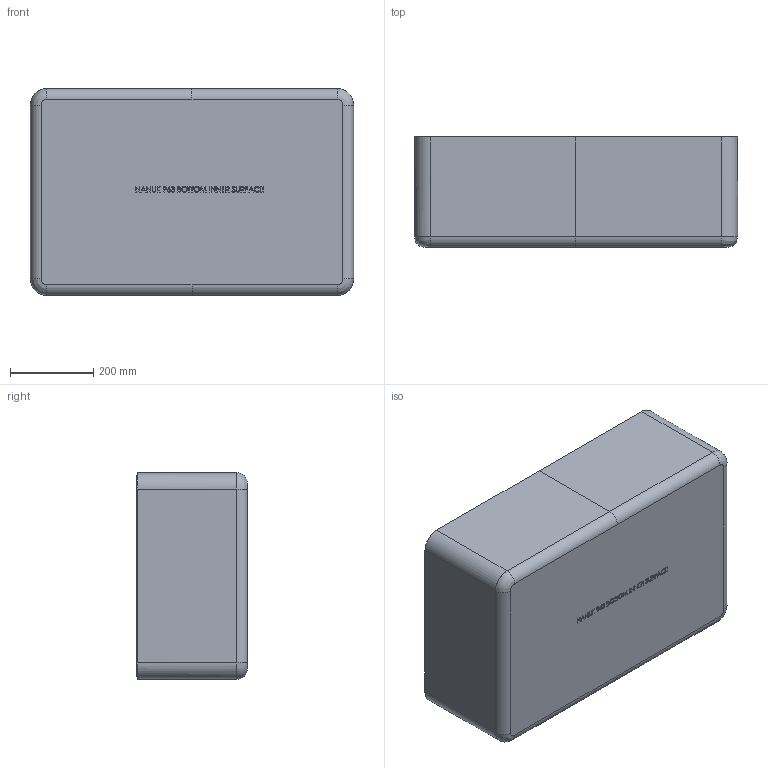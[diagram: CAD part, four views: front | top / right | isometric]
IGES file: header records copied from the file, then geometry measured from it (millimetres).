
Start section: SolidWorks IGES file using analytic representation for surfaces
Global section: file name: Z:\Share\NANUK\Solidworks\3D\Cases\963\4 - 3D FILES\4 - INNER SURFACES\963_Btm_INNER_SURFACE.IGS; native system: SolidWorks 2018; preprocessor: SolidWorks 2018; author: scharria; date: 191111.142325; units: inch
Bounding box: 775.26 x 265.81 x 495.86 mm (x, y, z)
Surface area: 1963023 mm2 (no closed solid volume)
Topology: 0 solids, 0 shells, 2356 faces, 24541 edges, 24447 vertices
Faces by surface type: bspline 1830, revolution 526
